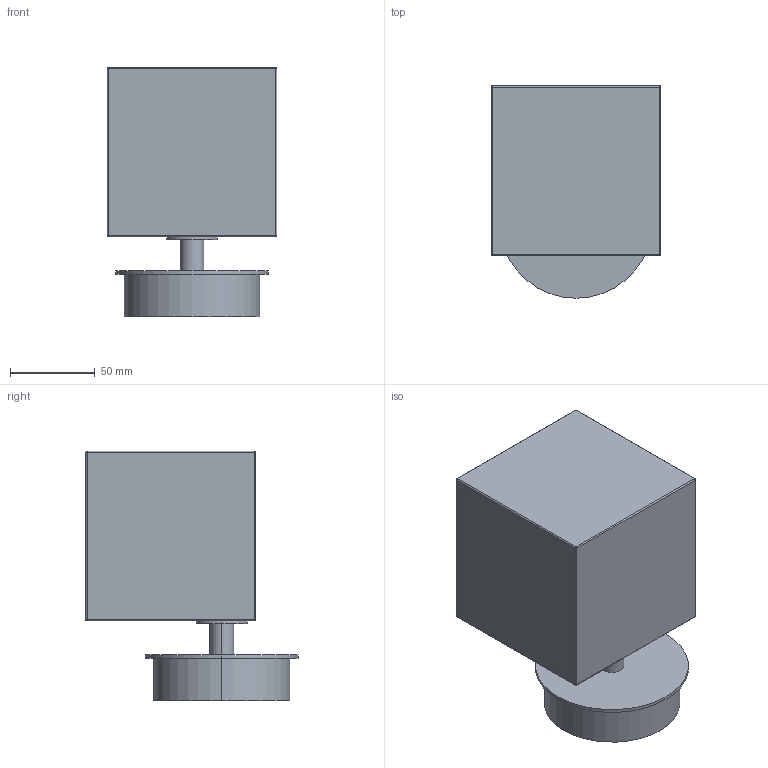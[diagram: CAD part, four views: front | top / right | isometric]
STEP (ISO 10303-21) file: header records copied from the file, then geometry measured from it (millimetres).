
FILE_DESCRIPTION (( 'STEP AP214' ), '1' );
FILE_NAME ('CUBIC_A1344.STEP', '2025-09-04T15:40:17', ( '' ), ( '' ), 'SwSTEP 2.0', 'SolidWorks 2018', '' );
FILE_SCHEMA (( 'AUTOMOTIVE_DESIGN' ));
Length unit declared in the file: millimetre
Products named in the file (1): CUBIC_A1344
Bounding box: 100 x 125 x 147 mm (x, y, z)
Volume: 423447 mm3; surface area: 118045 mm2
Topology: 5 solids, 5 shells, 65 faces, 134 edges, 74 vertices
Faces by surface type: cylinder 34, plane 21, sphere 8, torus 2
Entity records: 2437 total; most frequent: DIRECTION 318, CARTESIAN_POINT 278, ORIENTED_EDGE 252, AXIS2_PLACEMENT_3D 130, EDGE_CURVE 126, VERTEX_POINT 74, UNCERTAINTY_MEASURE_WITH_UNIT 72, EDGE_LOOP 72
